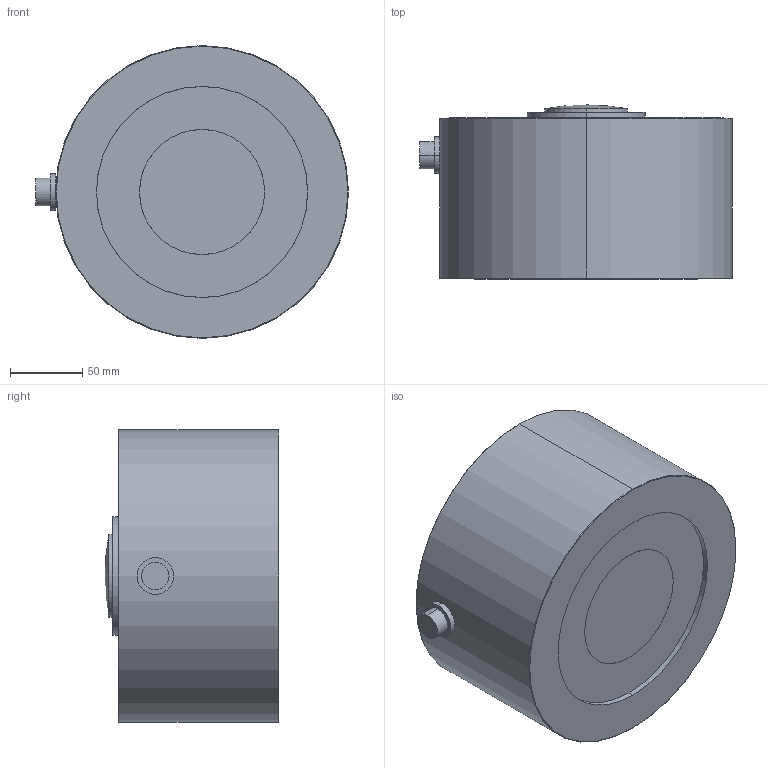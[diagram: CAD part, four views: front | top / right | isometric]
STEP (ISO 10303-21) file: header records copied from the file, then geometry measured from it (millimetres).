
FILE_DESCRIPTION (( 'STEP AP214' ), '1' );
FILE_NAME ('FINAL ASBY SS1772-200KLB.STEP', '2024-08-12T14:40:05', ( '' ), ( '' ), 'SwSTEP 2.0', 'SolidWorks 2008', '' );
FILE_SCHEMA (( 'AUTOMOTIVE_DESIGN' ));
Length unit declared in the file: inch
Products named in the file (1): FINAL ASBY SS1772-200KLB
Bounding box: 217.17 x 120.7 x 203.2 mm (x, y, z)
Volume: 3568897.5 mm3; surface area: 154931.6 mm2
Topology: 2 solids, 2 shells, 56 faces, 111 edges, 72 vertices
Faces by surface type: cylinder 32, plane 17, cone 6, sphere 1
Entity records: 1492 total; most frequent: DIRECTION 292, CARTESIAN_POINT 235, ORIENTED_EDGE 216, AXIS2_PLACEMENT_3D 127, EDGE_CURVE 108, CIRCLE 70, EDGE_LOOP 70, VERTEX_POINT 70
